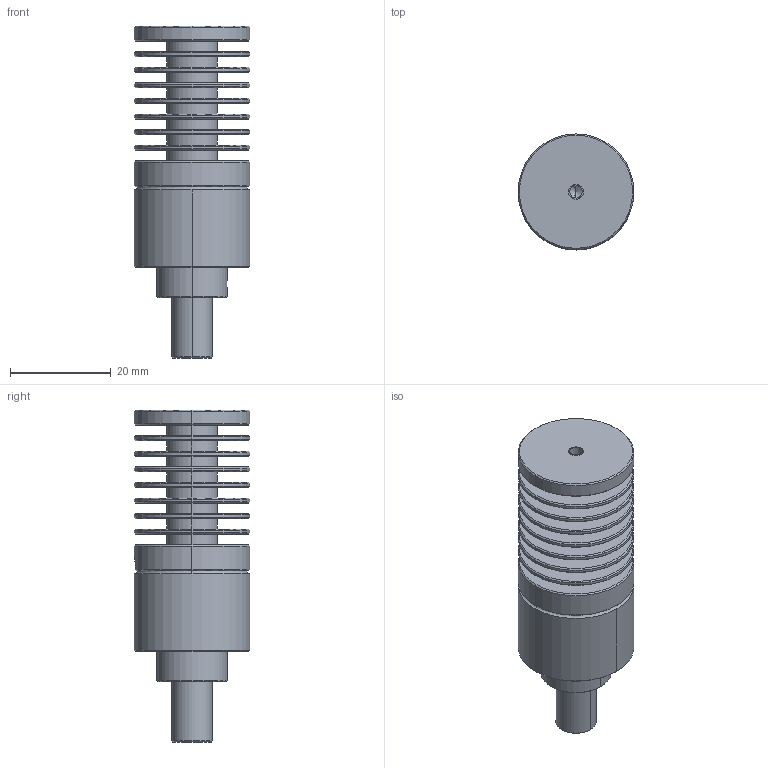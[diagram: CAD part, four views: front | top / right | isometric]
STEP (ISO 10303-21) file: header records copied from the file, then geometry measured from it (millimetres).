
FILE_DESCRIPTION (( 'STEP AP203' ), '1' );
FILE_NAME ('BTHH-SP24-3W-WÂI¥ú·½.stp', '2023-04-13T03:49:23', ( '' ), ( '' ), 'SwSTEP 2.0', 'SolidWorks 2017', '' );
FILE_SCHEMA (( 'CONFIG_CONTROL_DESIGN' ));
Length unit declared in the file: millimetre
Products named in the file (5): BTHH-SP24-3W-W點光源; 000_2; 5W_LED0; 000; 0002
Assembly tree (4 placements, depth 2):
  BTHH-SP24-3W-W點光源
    000
    0002
    000_2
    5W_LED0
Bounding box: 23 x 23 x 66 mm (x, y, z)
Volume: 894.9 mm3; surface area: 13032.8 mm2
Topology: 2 solids, 6 shells, 189 faces, 429 edges, 275 vertices
Faces by surface type: cylinder 79, plane 51, cone 49, bspline 8, torus 2
Entity records: 6494 total; most frequent: CARTESIAN_POINT 1611, DIRECTION 994, ORIENTED_EDGE 834, EDGE_CURVE 427, AXIS2_PLACEMENT_3D 413, VERTEX_POINT 275, EDGE_LOOP 226, CIRCLE 224
